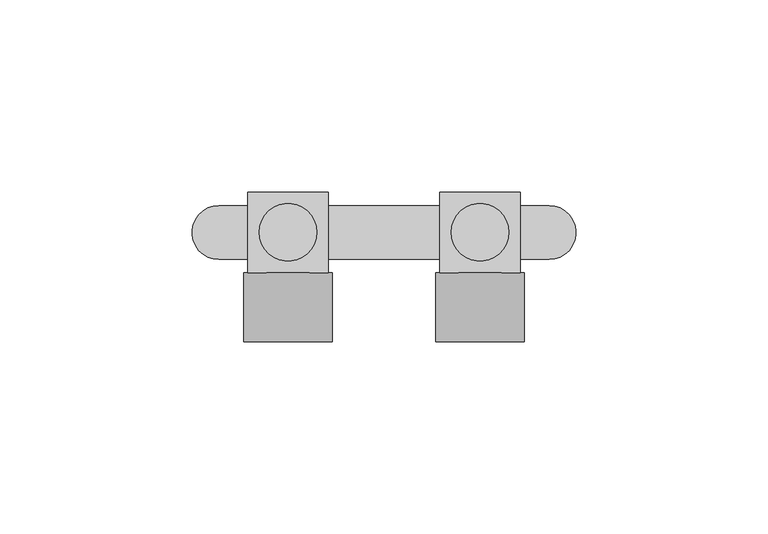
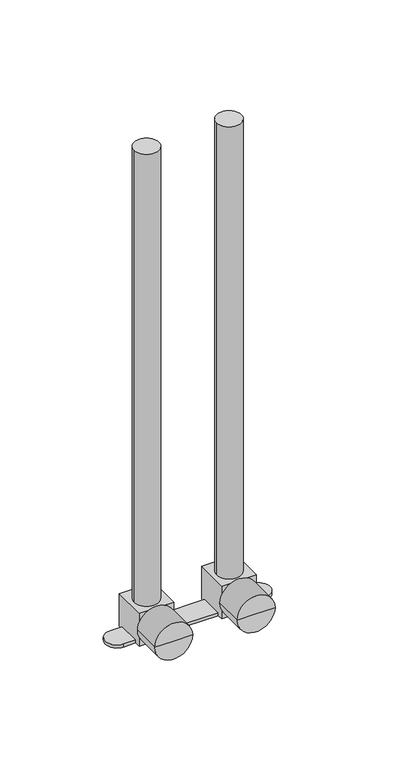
"""IFC4 building model written with IfcOpenShell, lengths in millimetres: pipe fitting geometry, KAN-therm Push 18x2 kolanko zespolone ze wspornikiem L=300 : KAN-therm Push 18x2 kolanko zespolone ze wspornikiem L=300."""

from ifc_helpers import new_model, si_unit, point, frame, frame_2d, origin, origin_with_axes, origin_2d, place, context, project, spatial, circle_curve, trimmed, segment, composite_curve, outline, extrude, source, transform, mapped, element, save
from ifc_brep_helpers import plane_surface, cylinder_surface, advanced_brep


def pipe_fitting_1cb3a0dc(model_context):
    return source(origin(), model_context, "Body", "SolidModel", [
        advanced_brep(
        [(-11.5, -28.5, 0.0), (11.5, -28.5, 0.0), (0.0, -28.5, 0.0), (-11.5, -10.5, 0.0), (11.5, -10.5, 0.0), (0.0, -10.5, 0.0)],
        [
            (0, 1, circle_curve(frame((0.0, -28.5, 0.0), z_axis=(0.0, -1.0, 0.0), x_axis=(1.0000000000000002, 0.0, 0.0)), 11.5)),
            (1, 2),
            (2, 0),
            (1, 0, circle_curve(frame((0.0, -28.5, 0.0), z_axis=(0.0, -1.0, 0.0), x_axis=(1.0000000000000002, 0.0, 0.0)), 11.5)),
            (3, 4, circle_curve(frame((0.0, -10.5, 0.0), z_axis=(0.0, -1.0, 0.0), x_axis=(1.0000000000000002, 0.0, 0.0)), 11.5)),
            (4, 1),
            (0, 3),
            (4, 3, circle_curve(frame((0.0, -10.5, 0.0), z_axis=(0.0, -1.0, 0.0), x_axis=(1.0000000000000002, 0.0, 0.0)), 11.5)),
            (5, 4),
            (3, 5),
        ],
        [
            plane_surface(frame((0.0, -28.5, 0.0), z_axis=(0.0, -1.0, 0.0), x_axis=(1.0, 0.0, 0.0))),
            cylinder_surface(frame((0.0, -2005.5, 0.0), z_axis=(0.0, 1.0000000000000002, 0.0), x_axis=(1.0000000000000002, 0.0, 0.0)), 11.5),
            plane_surface(frame((0.0, -10.5, 0.0), z_axis=(0.0, 1.0, 0.0), x_axis=(1.0, 0.0, 0.0))),
        ],
        [
            (0, [[1, 2, 3]]),
            (0, [[4, -3, -2]]),
            (1, [[5, 6, -1, 7]]),
            (1, [[8, -7, -4, -6]]),
            (2, [[9, -5, 10]]),
            (2, [[-10, -8, -9]]),
        ],
    ),
        advanced_brep(
        [(38.5, -28.5, 0.0), (61.5, -28.5, 0.0), (50.0, -28.5, 0.0), (38.5, -10.5, 0.0), (61.5, -10.5, 0.0), (50.0, -10.5, 0.0)],
        [
            (0, 1, circle_curve(frame((50.0, -28.5, 0.0), z_axis=(0.0, -1.0, 0.0), x_axis=(1.0000000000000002, 0.0, 0.0)), 11.5)),
            (1, 2),
            (2, 0),
            (1, 0, circle_curve(frame((50.0, -28.5, 0.0), z_axis=(0.0, -1.0, 0.0), x_axis=(1.0000000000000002, 0.0, 0.0)), 11.5)),
            (3, 4, circle_curve(frame((50.0, -10.5, 0.0), z_axis=(0.0, -1.0, 0.0), x_axis=(1.0000000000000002, 0.0, 0.0)), 11.5)),
            (4, 1),
            (0, 3),
            (4, 3, circle_curve(frame((50.0, -10.5, 0.0), z_axis=(0.0, -1.0, 0.0), x_axis=(1.0000000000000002, 0.0, 0.0)), 11.5)),
            (5, 4),
            (3, 5),
        ],
        [
            plane_surface(frame((50.0, -28.5, 0.0), z_axis=(0.0, -1.0, 0.0), x_axis=(1.0, 0.0, 0.0))),
            cylinder_surface(frame((50.0, -2005.5, 0.0), z_axis=(0.0, 1.0000000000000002, 0.0), x_axis=(1.0000000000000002, 0.0, 0.0)), 11.5),
            plane_surface(frame((50.0, -10.5, 0.0), z_axis=(0.0, 1.0, 0.0), x_axis=(1.0, 0.0, 0.0))),
        ],
        [
            (0, [[1, 2, 3]]),
            (0, [[4, -3, -2]]),
            (1, [[5, 6, -1, 7]]),
            (1, [[8, -7, -4, -6]]),
            (2, [[9, -5, 10]]),
            (2, [[-10, -8, -9]]),
        ],
    ),
        extrude(outline(composite_curve([segment(trimmed(circle_curve(origin_2d(), 7.5), [point((-7.5, 0.0))], [point((7.5, 0.0))], False, "CARTESIAN"), True, "CONTINUOUS"), segment(trimmed(circle_curve(origin_2d(), 7.5), [point((7.5, 0.0))], [point((-7.5, 0.0))], False, "CARTESIAN"), True, "CONTINUOUS")], self_intersect=False)), origin_with_axes(), (0.0, 0.0, 1.0), 300.0),
        extrude(outline(composite_curve([segment(trimmed(circle_curve(frame_2d((50.0, 0.0)), 7.5), [point((42.5, 0.0))], [point((57.5, 0.0))], False, "CARTESIAN"), True, "CONTINUOUS"), segment(trimmed(circle_curve(frame_2d((50.0, 0.0)), 7.5), [point((57.5, 0.0))], [point((42.5, 0.0))], False, "CARTESIAN"), True, "CONTINUOUS")], self_intersect=False)), origin_with_axes(), (0.0, 0.0, 1.0), 300.0),
        advanced_brep(
        [(60.5, -10.5, 10.5), (60.5, 10.5, 10.5), (39.5, 10.5, 10.5), (39.5, -10.5, 10.5), (-18.0, -7.0, -10.5), (-18.0, 7.0, -10.5), (-10.5, 7.0, -10.5), (-10.5, 10.5, -10.5), (10.5, 10.5, -10.5), (10.5, 7.0, -10.5), (39.5, 7.0, -10.5), (39.5, 10.5, -10.5), (60.5, 10.5, -10.5), (60.5, 7.0, -10.5), (68.0, 7.0, -10.5), (68.0, -7.0, -10.5), (60.5, -7.0, -10.5), (60.5, -10.5, -10.5), (39.5, -10.5, -10.5), (39.5, -7.0, -10.5), (10.5, -7.0, -10.5), (10.5, -10.5, -10.5), (-10.5, -10.5, -10.5), (-10.5, -7.0, -10.5), (60.5, -7.0, -8.5), (60.5, 7.0, -8.5), (39.5, 7.0, -8.5), (39.5, -7.0, -8.5), (10.5, -10.5, 10.5), (10.5, 10.5, 10.5), (-10.5, 10.5, 10.5), (-10.5, -10.5, 10.5), (10.5, -7.0, -8.5), (10.5, 7.0, -8.5), (-10.5, 7.0, -8.5), (-10.5, -7.0, -8.5), (-18.0, 7.0, -8.5), (-18.0, -7.0, -8.5), (68.0, -7.0, -8.5), (68.0, 7.0, -8.5)],
        [
            (0, 1),
            (1, 2),
            (2, 3),
            (3, 0),
            (4, 5, circle_curve(frame((-18.0, 0.0, -10.5), z_axis=(0.0, 0.0, -1.0), x_axis=(1.0, 0.0, 0.0)), 7.0)),
            (5, 6),
            (6, 7),
            (7, 8),
            (8, 9),
            (9, 10),
            (10, 11),
            (11, 12),
            (12, 13),
            (13, 14),
            (14, 15, circle_curve(frame((68.0, 0.0, -10.5), z_axis=(0.0, 0.0, -1.0), x_axis=(1.0, 0.0, 0.0)), 7.0)),
            (15, 16),
            (16, 17),
            (17, 18),
            (18, 19),
            (19, 20),
            (20, 21),
            (21, 22),
            (22, 23),
            (23, 4),
            (0, 17),
            (16, 24),
            (24, 25),
            (25, 13),
            (12, 1),
            (11, 2),
            (10, 26),
            (26, 27),
            (27, 19),
            (18, 3),
            (28, 29),
            (29, 30),
            (30, 31),
            (31, 28),
            (28, 21),
            (20, 32),
            (32, 33),
            (33, 9),
            (8, 29),
            (7, 30),
            (6, 34),
            (34, 35),
            (35, 23),
            (22, 31),
            (36, 37, circle_curve(frame((-18.0, 0.0, -8.5), z_axis=(0.0, 0.0, 1.0), x_axis=(1.0, 0.0, 0.0)), 7.0)),
            (37, 35),
            (34, 36),
            (38, 39, circle_curve(frame((68.0, 0.0, -8.5), z_axis=(0.0, 0.0, 1.0), x_axis=(1.0, 0.0, 0.0)), 7.0)),
            (39, 25),
            (24, 38),
            (26, 33),
            (32, 27),
            (39, 14),
            (5, 36),
            (4, 37),
            (15, 38),
        ],
        [
            plane_surface(frame((60.5, 10.5, 10.5), z_axis=(0.0, 0.0, 1.0), x_axis=(0.0, 1.0, 0.0))),
            plane_surface(frame((60.5, 10.5, -10.5), z_axis=(0.0, 0.0, -1.0), x_axis=(0.0, -1.0, 0.0))),
            plane_surface(frame((60.5, -10.5, 10.5), z_axis=(1.0, 0.0, 0.0), x_axis=(0.0, 0.0, -1.0))),
            plane_surface(frame((60.5, 10.5, 10.5), z_axis=(0.0, 1.0, 0.0), x_axis=(0.0, 0.0, -1.0))),
            plane_surface(frame((39.5, 10.5, 10.5), z_axis=(-1.0, 0.0, 0.0), x_axis=(0.0, 0.0, -1.0))),
            plane_surface(frame((39.5, -10.5, 10.5), z_axis=(0.0, -1.0, 0.0), x_axis=(0.0, 0.0, -1.0))),
            plane_surface(frame((10.5, 10.5, 10.5), z_axis=(0.0, 0.0, 1.0), x_axis=(0.0, 1.0, 0.0))),
            plane_surface(frame((10.5, -10.5, 10.5), z_axis=(1.0, 0.0, 0.0), x_axis=(0.0, 0.0, -1.0))),
            plane_surface(frame((10.5, 10.5, 10.5), z_axis=(0.0, 1.0, 0.0), x_axis=(0.0, 0.0, -1.0))),
            plane_surface(frame((-10.5, 10.5, 10.5), z_axis=(-1.0, 0.0, 0.0), x_axis=(0.0, 0.0, -1.0))),
            plane_surface(frame((-10.5, -10.5, 10.5), z_axis=(0.0, -1.0, 0.0), x_axis=(0.0, 0.0, -1.0))),
            plane_surface(frame((2000.0, 7.0, -8.5), z_axis=(0.0, 0.0, 1.0), x_axis=(-1.0, 0.0, 0.0))),
            plane_surface(frame((68.0, 7.0, -8.5), z_axis=(0.0, 1.0, 0.0), x_axis=(0.0, 0.0, -1.0))),
            cylinder_surface(frame((-18.0, 0.0, -10.5), z_axis=(0.0, 0.0, 1.0), x_axis=(1.0, 0.0, 0.0)), 7.0),
            plane_surface(frame((-18.0, -7.0, -8.5), z_axis=(0.0, -1.0, 0.0), x_axis=(0.0, 0.0, -1.0))),
            cylinder_surface(frame((68.0, 0.0, -10.5), z_axis=(0.0, 0.0, 1.0), x_axis=(1.0, 0.0, 0.0)), 7.0),
        ],
        [
            (0, [[1, 2, 3, 4]]),
            (1, [[5, 6, 7, 8, 9, 10, 11, 12, 13, 14, 15, 16, 17, 18, 19, 20, 21, 22, 23, 24]]),
            (2, [[-1, 25, -17, 26, 27, 28, -13, 29]]),
            (3, [[-2, -29, -12, 30]]),
            (4, [[-3, -30, -11, 31, 32, 33, -19, 34]]),
            (5, [[-4, -34, -18, -25]]),
            (6, [[35, 36, 37, 38]]),
            (7, [[-35, 39, -21, 40, 41, 42, -9, 43]]),
            (8, [[-36, -43, -8, 44]]),
            (9, [[-37, -44, -7, 45, 46, 47, -23, 48]]),
            (10, [[-38, -48, -22, -39]]),
            (11, [[49, 50, -46, 51]]),
            (11, [[52, 53, -27, 54]]),
            (11, [[55, -41, 56, -32]]),
            (12, [[-10, -42, -55, -31]]),
            (12, [[57, -14, -28, -53]]),
            (12, [[58, -51, -45, -6]]),
            (13, [[-49, -58, -5, 59]]),
            (14, [[-20, -33, -56, -40]]),
            (14, [[-59, -24, -47, -50]]),
            (14, [[60, -54, -26, -16]]),
            (15, [[-52, -60, -15, -57]]),
        ],
    ),
    ])


if __name__ == "__main__":
    model = new_model("IFC4")
    model_context = context("Model", 3, world=origin())
    ifc_project = project(units=[si_unit("LENGTHUNIT", "METRE", prefix="MILLI")], contexts=[model_context])
    site = spatial("IfcSite", under=ifc_project)
    building = spatial("IfcBuilding", under=site)
    placement = place(None, origin())
    pipe_fitting_shape = pipe_fitting_1cb3a0dc(model_context)
    element("IfcPipeFitting", 1, ObjectType="KAN-therm Push 18x2 kolanko zespolone ze wspornikiem L=300 : KAN-therm Push 18x2 kolanko zespolone ze wspornikiem L=300", at=placement, inside=building, context=model_context, shape_type="MappedRepresentation", body=[
        mapped(pipe_fitting_shape, transform((0.0, 0.0, 0.0), x_axis=(1.0, 0.0, 0.0), y_axis=(0.0, 1.0, 0.0), z_axis=(0.0, 0.0, 1.0))),
    ])
    save(model, "model.ifc")
